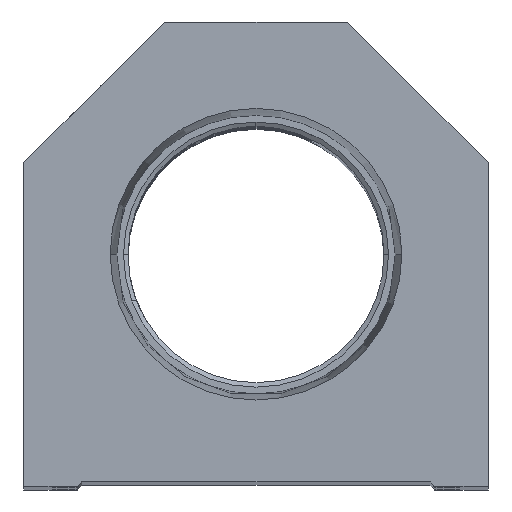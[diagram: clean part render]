
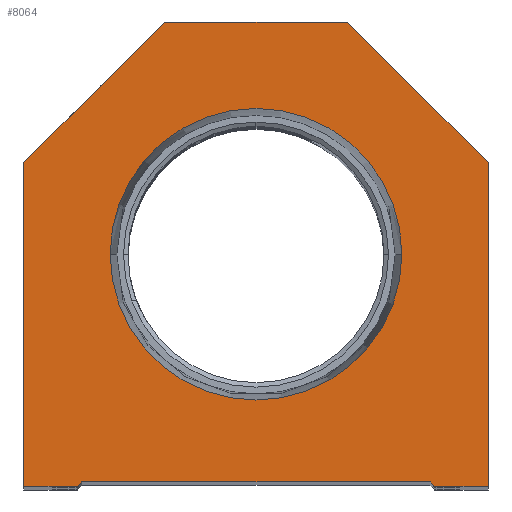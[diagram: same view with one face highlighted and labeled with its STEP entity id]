
A CAD part, top view. The second image highlights one B-rep face of the part: STEP entity #8064.
In plain terms, the highlighted planar face has unit normal (0, 0, 1).
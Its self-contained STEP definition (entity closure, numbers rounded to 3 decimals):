
#11 = VECTOR ( 'NONE', #8391, 1000. ) ;
#128 = EDGE_LOOP ( 'NONE', ( #11980, #7385, #4820, #15226, #19234, #11586, #1927, #14174, #13298, #362 ) ) ;
#292 = VERTEX_POINT ( 'NONE', #11592 ) ;
#362 = ORIENTED_EDGE ( 'NONE', *, *, #4993, .T. ) ;
#835 = EDGE_CURVE ( 'NONE', #20483, #5987, #20804, .T. ) ;
#847 = LINE ( 'NONE', #10362, #6988 ) ;
#1138 = DIRECTION ( 'NONE',  ( 1., 0., 0. ) ) ;
#1349 = CARTESIAN_POINT ( 'NONE',  ( -19.05, 0.5, 0. ) ) ;
#1407 = AXIS2_PLACEMENT_3D ( 'NONE', #13744, #20225, #13417 ) ;
#1927 = ORIENTED_EDGE ( 'NONE', *, *, #11566, .T. ) ;
#2372 = EDGE_CURVE ( 'NONE', #3101, #6330, #4662, .T. ) ;
#2511 = LINE ( 'NONE', #15511, #9512 ) ;
#2566 = FACE_BOUND ( 'NONE', #18116, .T. ) ;
#2624 = DIRECTION ( 'NONE',  ( 1., 0., 0. ) ) ;
#2833 = VECTOR ( 'NONE', #10142, 1000. ) ;
#2994 = ORIENTED_EDGE ( 'NONE', *, *, #16100, .F. ) ;
#3101 = VERTEX_POINT ( 'NONE', #7723 ) ;
#3211 = CARTESIAN_POINT ( 'NONE',  ( 25.4, 35.4, 0. ) ) ;
#3460 = DIRECTION ( 'NONE',  ( 0., -1., 0. ) ) ;
#3702 = CARTESIAN_POINT ( 'NONE',  ( -19.05, 0., 0. ) ) ;
#4440 = CARTESIAN_POINT ( 'NONE',  ( 19.55, 0., 0. ) ) ;
#4560 = EDGE_CURVE ( 'NONE', #8091, #9538, #847, .T. ) ;
#4662 = LINE ( 'NONE', #20638, #14637 ) ;
#4776 = CIRCLE ( 'NONE', #1407, 15.947 ) ;
#4820 = ORIENTED_EDGE ( 'NONE', *, *, #20067, .T. ) ;
#4993 = EDGE_CURVE ( 'NONE', #6330, #292, #9609, .T. ) ;
#5129 = AXIS2_PLACEMENT_3D ( 'NONE', #12143, #15368, #8908 ) ;
#5331 = CARTESIAN_POINT ( 'NONE',  ( 25.4, 0., 0. ) ) ;
#5625 = CARTESIAN_POINT ( 'NONE',  ( 19.05, 0.5, 0. ) ) ;
#5913 = CARTESIAN_POINT ( 'NONE',  ( 0., 25.4, 0. ) ) ;
#5987 = VERTEX_POINT ( 'NONE', #3211 ) ;
#6056 = FACE_OUTER_BOUND ( 'NONE', #128, .T. ) ;
#6294 = LINE ( 'NONE', #9450, #15417 ) ;
#6330 = VERTEX_POINT ( 'NONE', #8244 ) ;
#6479 = VECTOR ( 'NONE', #17533, 1000. ) ;
#6884 = VECTOR ( 'NONE', #18091, 1000. ) ;
#6988 = VECTOR ( 'NONE', #7509, 1000. ) ;
#7385 = ORIENTED_EDGE ( 'NONE', *, *, #7943, .T. ) ;
#7509 = DIRECTION ( 'NONE',  ( 0.707, -0.707, 0. ) ) ;
#7723 = CARTESIAN_POINT ( 'NONE',  ( -10., 50.8, 0. ) ) ;
#7811 = VERTEX_POINT ( 'NONE', #13665 ) ;
#7943 = EDGE_CURVE ( 'NONE', #8471, #7811, #6294, .T. ) ;
#8064 = ADVANCED_FACE ( 'NONE', ( #2566, #6056 ), #8791, .T. ) ;
#8091 = VERTEX_POINT ( 'NONE', #5625 ) ;
#8114 = CARTESIAN_POINT ( 'NONE',  ( -25.4, 0., 0. ) ) ;
#8244 = CARTESIAN_POINT ( 'NONE',  ( -25.4, 35.4, 0. ) ) ;
#8258 = LINE ( 'NONE', #17886, #6884 ) ;
#8310 = CARTESIAN_POINT ( 'NONE',  ( 10., 50.8, 0. ) ) ;
#8391 = DIRECTION ( 'NONE',  ( 0., 1., 0. ) ) ;
#8471 = VERTEX_POINT ( 'NONE', #15842 ) ;
#8740 = DIRECTION ( 'NONE',  ( -0.707, 0.707, 0. ) ) ;
#8791 = PLANE ( 'NONE',  #5129 ) ;
#8908 = DIRECTION ( 'NONE',  ( 1., 0., 0. ) ) ;
#9450 = CARTESIAN_POINT ( 'NONE',  ( -9.775, 9.775, 0. ) ) ;
#9512 = VECTOR ( 'NONE', #8740, 1000. ) ;
#9538 = VERTEX_POINT ( 'NONE', #4440 ) ;
#9609 = LINE ( 'NONE', #8114, #10069 ) ;
#10069 = VECTOR ( 'NONE', #3460, 1000. ) ;
#10142 = DIRECTION ( 'NONE',  ( 1., 0., 0. ) ) ;
#10362 = CARTESIAN_POINT ( 'NONE',  ( 9.775, 9.775, 0. ) ) ;
#10722 = CARTESIAN_POINT ( 'NONE',  ( 15.947, 25.4, 0. ) ) ;
#11190 = EDGE_CURVE ( 'NONE', #15183, #13498, #4776, .T. ) ;
#11566 = EDGE_CURVE ( 'NONE', #5987, #16210, #2511, .T. ) ;
#11586 = ORIENTED_EDGE ( 'NONE', *, *, #835, .T. ) ;
#11592 = CARTESIAN_POINT ( 'NONE',  ( -25.4, 0., 0. ) ) ;
#11701 = LINE ( 'NONE', #3702, #2833 ) ;
#11980 = ORIENTED_EDGE ( 'NONE', *, *, #18191, .T. ) ;
#12143 = CARTESIAN_POINT ( 'NONE',  ( 0., 0., 0. ) ) ;
#12486 = EDGE_CURVE ( 'NONE', #9538, #20483, #16068, .T. ) ;
#12721 = DIRECTION ( 'NONE',  ( 0.707, 0.707, 0. ) ) ;
#13298 = ORIENTED_EDGE ( 'NONE', *, *, #2372, .T. ) ;
#13417 = DIRECTION ( 'NONE',  ( 1., 0., 0. ) ) ;
#13474 = LINE ( 'NONE', #1349, #15069 ) ;
#13498 = VERTEX_POINT ( 'NONE', #10722 ) ;
#13665 = CARTESIAN_POINT ( 'NONE',  ( -19.05, 0.5, 0. ) ) ;
#13744 = CARTESIAN_POINT ( 'NONE',  ( 0., 25.4, 0. ) ) ;
#14174 = ORIENTED_EDGE ( 'NONE', *, *, #14547, .T. ) ;
#14222 = CARTESIAN_POINT ( 'NONE',  ( 19.05, 0., 0. ) ) ;
#14547 = EDGE_CURVE ( 'NONE', #16210, #3101, #8258, .T. ) ;
#14637 = VECTOR ( 'NONE', #17789, 1000. ) ;
#14718 = ORIENTED_EDGE ( 'NONE', *, *, #11190, .F. ) ;
#15069 = VECTOR ( 'NONE', #2624, 1000. ) ;
#15183 = VERTEX_POINT ( 'NONE', #16460 ) ;
#15226 = ORIENTED_EDGE ( 'NONE', *, *, #4560, .T. ) ;
#15264 = CIRCLE ( 'NONE', #17634, 15.947 ) ;
#15368 = DIRECTION ( 'NONE',  ( 0., 0., 1. ) ) ;
#15417 = VECTOR ( 'NONE', #12721, 1000. ) ;
#15511 = CARTESIAN_POINT ( 'NONE',  ( 25.4, 35.4, 0. ) ) ;
#15842 = CARTESIAN_POINT ( 'NONE',  ( -19.55, 0., 0. ) ) ;
#16068 = LINE ( 'NONE', #14222, #6479 ) ;
#16100 = EDGE_CURVE ( 'NONE', #13498, #15183, #15264, .T. ) ;
#16210 = VERTEX_POINT ( 'NONE', #8310 ) ;
#16460 = CARTESIAN_POINT ( 'NONE',  ( -15.947, 25.4, 0. ) ) ;
#17216 = DIRECTION ( 'NONE',  ( 0., 0., 1. ) ) ;
#17533 = DIRECTION ( 'NONE',  ( 1., 0., 0. ) ) ;
#17634 = AXIS2_PLACEMENT_3D ( 'NONE', #5913, #17216, #1138 ) ;
#17789 = DIRECTION ( 'NONE',  ( -0.707, -0.707, 0. ) ) ;
#17886 = CARTESIAN_POINT ( 'NONE',  ( 10., 50.8, 0. ) ) ;
#18091 = DIRECTION ( 'NONE',  ( -1., 0., 0. ) ) ;
#18116 = EDGE_LOOP ( 'NONE', ( #2994, #14718 ) ) ;
#18191 = EDGE_CURVE ( 'NONE', #292, #8471, #11701, .T. ) ;
#19234 = ORIENTED_EDGE ( 'NONE', *, *, #12486, .T. ) ;
#20054 = CARTESIAN_POINT ( 'NONE',  ( 25.4, 0., 0. ) ) ;
#20067 = EDGE_CURVE ( 'NONE', #7811, #8091, #13474, .T. ) ;
#20225 = DIRECTION ( 'NONE',  ( 0., 0., 1. ) ) ;
#20483 = VERTEX_POINT ( 'NONE', #20054 ) ;
#20638 = CARTESIAN_POINT ( 'NONE',  ( -25.4, 35.4, 0. ) ) ;
#20804 = LINE ( 'NONE', #5331, #11 ) ;
